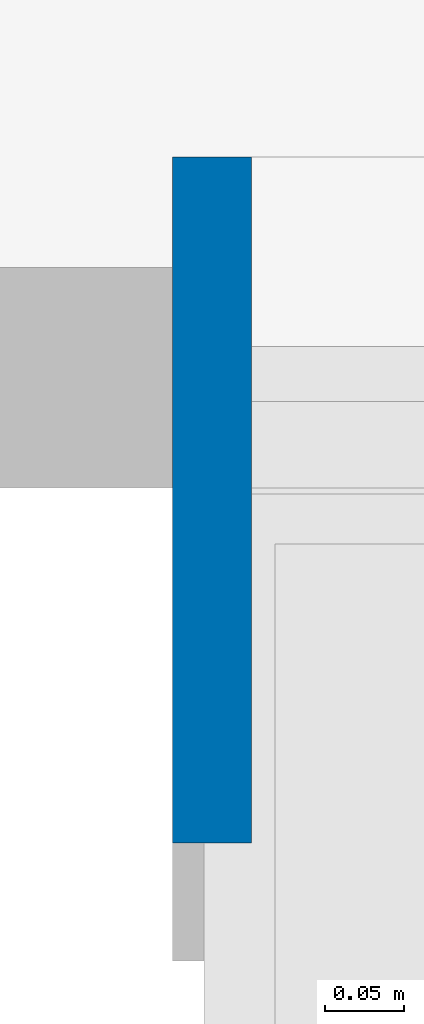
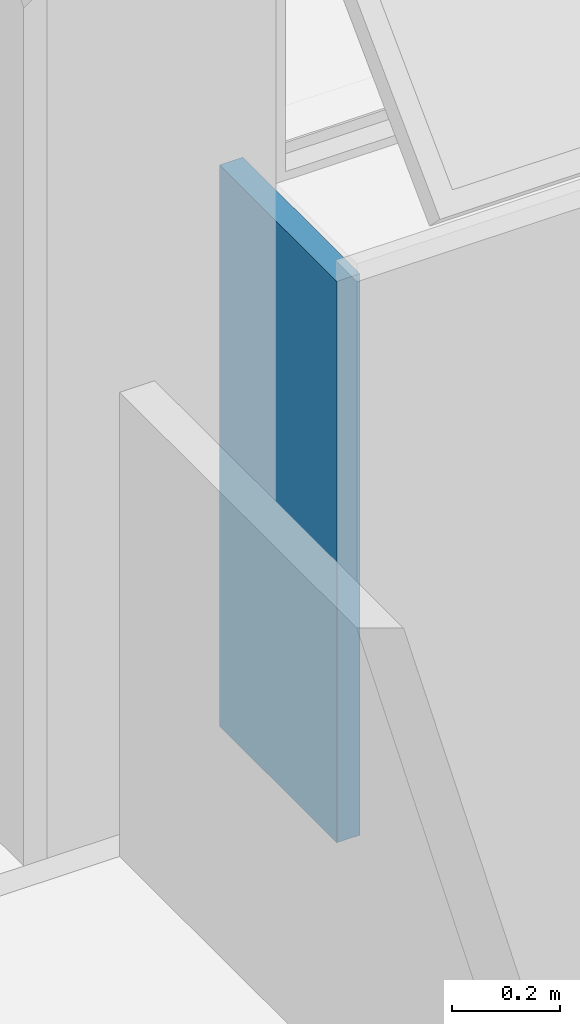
# One storey, part 21 of 38: 1 wall.
"""IFC2X3 building model written with IfcOpenShell, lengths in millimetres."""

from ifc_helpers import new_model, entity, si_unit, converted_unit, derived_unit, money_unit, direction, frame, origin_with_axes, place, context, subcontext, project, spatial, polyline, outline, extrude, material, layer, layer_set, layer_usage, type_object, element, save


model = new_model("IFC2X3")

# Units and contexts
model_context = context("Model", 3, precision=0.01, world=origin_with_axes(), true_north=direction((0.0, 1.0)))
body_context = subcontext(model_context, "Body", "Model", "MODEL_VIEW")
ifc_project = project(units=[si_unit("LENGTHUNIT", "METRE", prefix="MILLI"), si_unit("AREAUNIT", "SQUARE_METRE"), si_unit("VOLUMEUNIT", "CUBIC_METRE"), converted_unit("PLANEANGLEUNIT", "DEGREE", entity("IfcPlaneAngleMeasure", 0.0174532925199), si_unit("PLANEANGLEUNIT", "RADIAN"), dimensions=[0, 0, 0, 0, 0, 0, 0]), money_unit("USD"), converted_unit("TIMEUNIT", "Year", entity("IfcTimeMeasure", 31556926.0), si_unit("TIMEUNIT", "SECOND"), dimensions=[0, 0, 1, 0, 0, 0, 0]), si_unit("MASSUNIT", "GRAM", prefix="KILO"), si_unit("THERMODYNAMICTEMPERATUREUNIT", "DEGREE_CELSIUS"), si_unit("LUMINOUSINTENSITYUNIT", "LUMEN"), si_unit("ENERGYUNIT", "JOULE", prefix="MEGA"), derived_unit("THERMALCONDUCTANCEUNIT", [(si_unit("POWERUNIT", "WATT"), 1), (si_unit("LENGTHUNIT", "METRE"), -1), (si_unit("THERMODYNAMICTEMPERATUREUNIT", "KELVIN"), -1)]), derived_unit("SPECIFICHEATCAPACITYUNIT", [(si_unit("ENERGYUNIT", "JOULE"), 1), (si_unit("MASSUNIT", "GRAM", prefix="KILO"), -1), (si_unit("THERMODYNAMICTEMPERATUREUNIT", "KELVIN"), -1)]), derived_unit("MASSDENSITYUNIT", [(si_unit("MASSUNIT", "GRAM", prefix="KILO"), 1), (si_unit("VOLUMEUNIT", "CUBIC_METRE"), -1)])], contexts=[model_context])

# Site, building, storey
site_placement = place(None, origin_with_axes())
site = spatial("IfcSite", under=ifc_project, at=site_placement, Name="Local", CompositionType="ELEMENT")
building_placement = place(site_placement, origin_with_axes())
building = spatial("IfcBuilding", under=site, at=building_placement, Name="Construção", CompositionType="ELEMENT")
storey_placement = place(building_placement, frame((0.0, 0.0, 2650.0), z_axis=(0.0, 0.0, 1.0), x_axis=(1.0, 0.0, 0.0)))
storey = spatial("IfcBuildingStorey", under=building, at=storey_placement, Name="Segundo Pavimento", CompositionType="ELEMENT", Elevation=2650.0)

# Wall
ifc_material = material(Name="Concreto Armado Moldado in Loco - Estrutural")
ifc_layer = layer(ifc_material, 50.0, ventilated="UNKNOWN")
ifc_layer_set = layer_set([ifc_layer], Name="Concreto Armado Moldado in Loco - Estrutural 50")
ifc_layer_usage = layer_usage(ifc_layer_set, "AXIS2", "POSITIVE", -50.0)
wall_type = type_object("IfcWallType", Name="Concreto Armado Moldado in Loco - Estrutural 50", PredefinedType="NOTDEFINED")
wall_placement = place(storey_placement, frame((8920.0, 18105.0000013, 0.0), z_axis=(0.0, 0.0, 1.0), x_axis=(0.0, -1.0, 0.0)))
element("IfcWallStandardCase", 1, at=wall_placement, inside=storey, type_object=wall_type, material=ifc_layer_usage, Name="APTO8-PAREDE-016", context=body_context, shape_type="SweptSolid", body=[
    extrude(outline(polyline([(0.0, -50.0), (435.0, -50.0), (435.0, 0.0), (0.0, 0.0), (0.0, -50.0)])), origin_with_axes(), (0.0, 0.0, 1.0), 1270.0),
])

save(model, "model.ifc")
